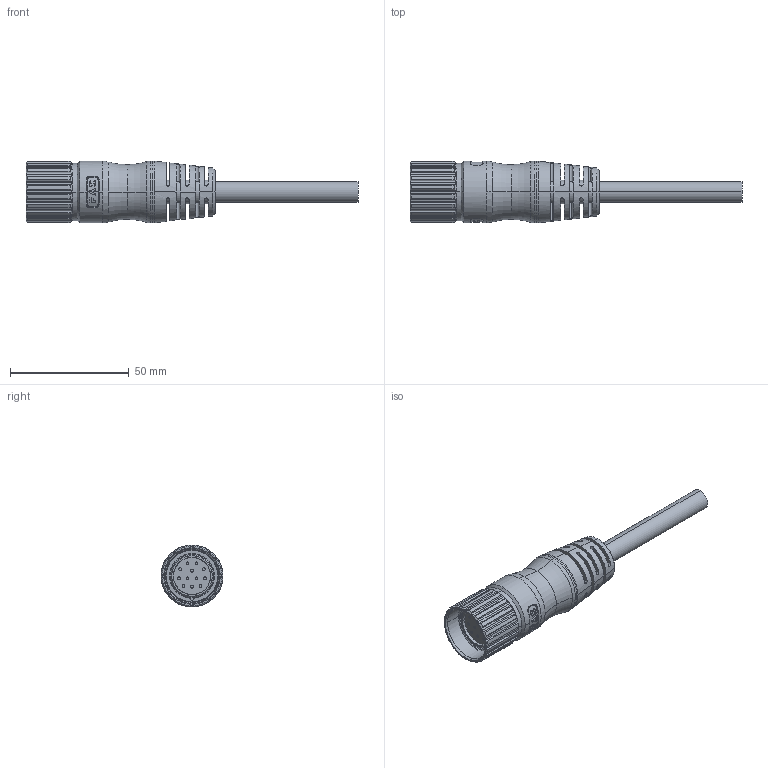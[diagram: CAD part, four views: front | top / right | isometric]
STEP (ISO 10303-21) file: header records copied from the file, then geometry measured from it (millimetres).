
FILE_DESCRIPTION (( 'STEP AP203' ), '1' );
FILE_NAME ('68CB21.STEP', '2024-09-30T06:20:16', ( 'L' ), ( '' ), 'SwSTEP 2.0', 'SolidWorks 2019', '' );
FILE_SCHEMA (( 'CONFIG_CONTROL_DESIGN' ));
Length unit declared in the file: millimetre
Products named in the file (1): 68CB21
Bounding box: 139.5 x 26 x 26 mm (x, y, z)
Volume: 34155.2 mm3; surface area: 16868.9 mm2
Topology: 2 solids, 2 shells, 1005 faces, 2734 edges, 1749 vertices
Faces by surface type: cylinder 388, plane 364, cone 133, torus 80, bspline 28, sphere 12
Entity records: 40792 total; most frequent: CARTESIAN_POINT 17133, ORIENTED_EDGE 5456, DIRECTION 4421, EDGE_CURVE 2728, AXIS2_PLACEMENT_3D 1944, VERTEX_POINT 1749, B_SPLINE_CURVE_WITH_KNOTS 1118, EDGE_LOOP 1065
